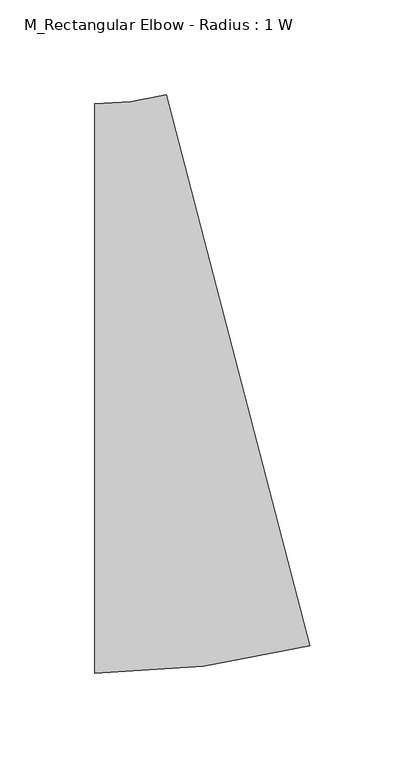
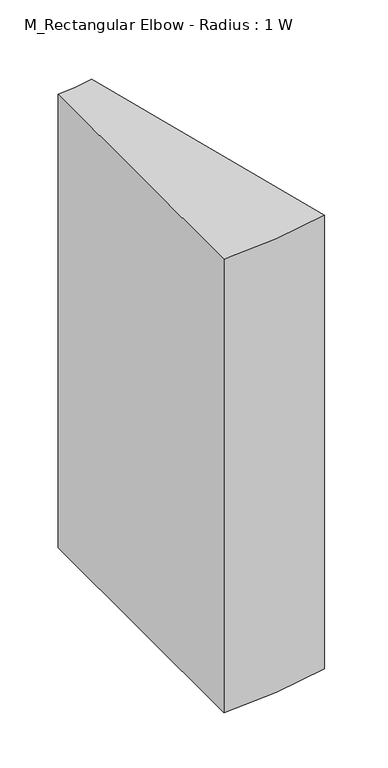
"""IFC4 building model written with IfcOpenShell, lengths in millimetres: duct fitting geometry, M_Rectangular Elbow - Radius : 1 W."""

from ifc_helpers import new_model, si_unit, point, frame, frame_2d, origin, place, context, project, spatial, polyline, circle_curve, trimmed, segment, composite_curve, outline, extrude, source, transform, mapped, element, save


def m_rectangular_elbow_radius_1_w_f78a0081(model_context):
    return source(origin(), model_context, "Body", "SweptSolid", [
        extrude(outline(composite_curve([segment(trimmed(circle_curve(frame_2d((-38.38745, 300.0)), 450.0), [point((74.9196891, -135.5014262))], [point((-38.38745, -150.0))], False, "CARTESIAN"), True, "CONTINUOUS"), segment(polyline([(-38.38745, -150.0), (-38.38745, 150.0)]), True, "CONTINUOUS"), segment(trimmed(circle_curve(frame_2d((-38.38745, 300.0)), 150.0), [point((-38.38745, 150.0))], [point((-0.6184036, 154.8328579))], True, "CARTESIAN"), True, "CONTINUOUS"), segment(polyline([(-0.6184036, 154.8328579), (74.9196891, -135.5014262)]), True, "CONTINUOUS")], self_intersect=False)), frame((0.0, 0.0, -250.0), z_axis=(0.0, 0.0, 1.0), x_axis=(1.0, 0.0, 0.0)), (0.0, 0.0, 1.0), 500.0),
    ])


if __name__ == "__main__":
    model = new_model("IFC4")
    model_context = context("Model", 3, world=origin())
    ifc_project = project(units=[si_unit("LENGTHUNIT", "METRE", prefix="MILLI")], contexts=[model_context])
    site = spatial("IfcSite", under=ifc_project)
    building = spatial("IfcBuilding", under=site)
    placement = place(None, origin())
    m_rectangular_elbow_radius_1_w_shape = m_rectangular_elbow_radius_1_w_f78a0081(model_context)
    element("IfcDuctFitting", 1, ObjectType="M_Rectangular Elbow - Radius : 1 W", at=placement, inside=building, context=model_context, shape_type="MappedRepresentation", body=[
        mapped(m_rectangular_elbow_radius_1_w_shape, transform((0.0, 0.0, 0.0), x_axis=(1.0, 0.0, 0.0), y_axis=(0.0, 1.0, 0.0), z_axis=(0.0, 0.0, 1.0))),
    ])
    save(model, "model.ifc")
